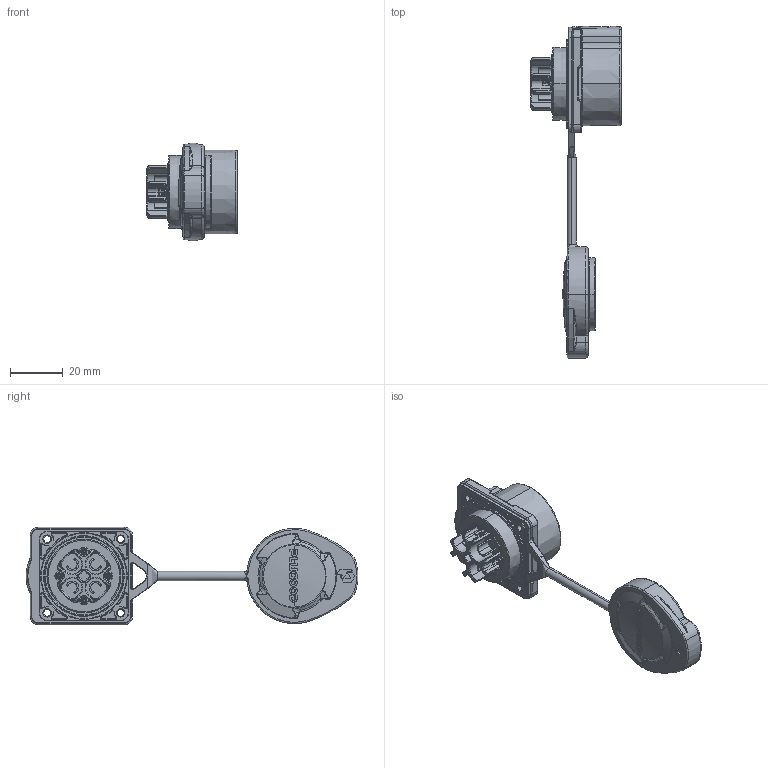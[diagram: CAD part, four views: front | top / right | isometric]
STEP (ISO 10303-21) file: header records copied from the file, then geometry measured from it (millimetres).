
FILE_DESCRIPTION (( 'STEP AP203' ), '1' );
FILE_NAME ('PLG28408104-REV1-1-PLG28 4+4郋侐謂假蚾脣釱.STEP', '2025-08-11T08:03:51', ( '' ), ( '' ), 'SwSTEP 2.0', 'SolidWorks 2015', '' );
FILE_SCHEMA (( 'CONFIG_CONTROL_DESIGN' ));
Length unit declared in the file: millimetre
Products named in the file (1): PLG28408104-REV1-1-PLG28 4+4郋侐謂假蚾脣釱
Bounding box: 34.4 x 126.27 x 37 mm (x, y, z)
Volume: 23433.7 mm3; surface area: 19843.6 mm2
Topology: 32 solids, 32 shells, 2165 faces, 5292 edges, 3204 vertices
Faces by surface type: cylinder 722, bspline 542, plane 524, torus 249, cone 116, sphere 12
Entity records: 74995 total; most frequent: CARTESIAN_POINT 27421, ORIENTED_EDGE 10490, DIRECTION 9387, EDGE_CURVE 5245, AXIS2_PLACEMENT_3D 3753, VERTEX_POINT 3204, EDGE_LOOP 2253, ADVANCED_FACE 2165
